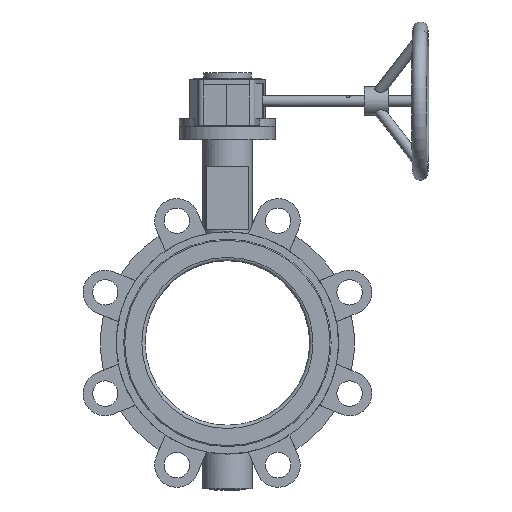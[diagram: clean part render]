
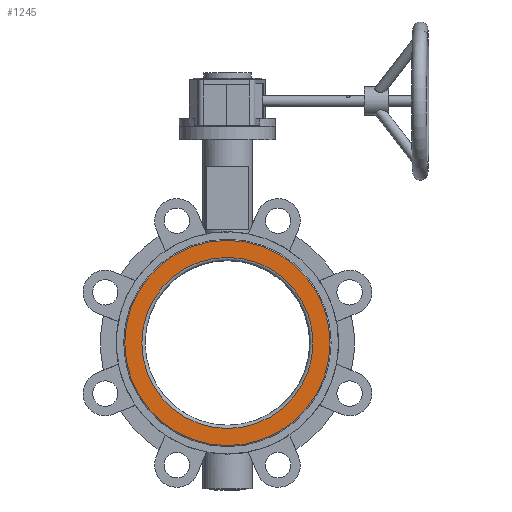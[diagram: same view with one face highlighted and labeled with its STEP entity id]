
A CAD part, front view. The second image highlights one B-rep face of the part: STEP entity #1245.
In plain terms, the highlighted planar face has unit normal (0, -1, 0) as drawn and (1, 0, 0) by its records, which use the part's own axes.
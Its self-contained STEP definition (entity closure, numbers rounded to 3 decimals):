
#525 = CARTESIAN_POINT ( 'NONE',  ( 30., 97., 0. ) ) ;
#678 = CIRCLE ( 'NONE', #5215, 80.889 ) ;
#959 = EDGE_LOOP ( 'NONE', ( #2393 ) ) ;
#1078 = PLANE ( 'NONE',  #2253 ) ;
#1245 = ADVANCED_FACE ( 'NONE', ( #5617, #5891 ), #1078, .F. ) ;
#1560 = CARTESIAN_POINT ( 'NONE',  ( 30., 0., 80.889 ) ) ;
#1777 = AXIS2_PLACEMENT_3D ( 'NONE', #8842, #2406, #7201 ) ;
#2141 = EDGE_CURVE ( 'NONE', #5085, #5085, #3168, .T. ) ;
#2253 = AXIS2_PLACEMENT_3D ( 'NONE', #525, #10103, #10202 ) ;
#2393 = ORIENTED_EDGE ( 'NONE', *, *, #2141, .F. ) ;
#2406 = DIRECTION ( 'NONE',  ( -1., 0., 0. ) ) ;
#2856 = EDGE_LOOP ( 'NONE', ( #6996 ) ) ;
#3168 = CIRCLE ( 'NONE', #1777, 97. ) ;
#3532 = CARTESIAN_POINT ( 'NONE',  ( 30., 0., 0. ) ) ;
#5085 = VERTEX_POINT ( 'NONE', #7635 ) ;
#5215 = AXIS2_PLACEMENT_3D ( 'NONE', #3532, #10439, #5636 ) ;
#5617 = FACE_OUTER_BOUND ( 'NONE', #959, .T. ) ;
#5636 = DIRECTION ( 'NONE',  ( 0., 0., 1. ) ) ;
#5891 = FACE_BOUND ( 'NONE', #2856, .T. ) ;
#6996 = ORIENTED_EDGE ( 'NONE', *, *, #8690, .T. ) ;
#7201 = DIRECTION ( 'NONE',  ( 0., 0., 1. ) ) ;
#7635 = CARTESIAN_POINT ( 'NONE',  ( 30., 0., 97. ) ) ;
#8649 = VERTEX_POINT ( 'NONE', #1560 ) ;
#8690 = EDGE_CURVE ( 'NONE', #8649, #8649, #678, .T. ) ;
#8842 = CARTESIAN_POINT ( 'NONE',  ( 30., 0., 0. ) ) ;
#10103 = DIRECTION ( 'NONE',  ( -1., 0., 0. ) ) ;
#10202 = DIRECTION ( 'NONE',  ( 0., 0., 1. ) ) ;
#10439 = DIRECTION ( 'NONE',  ( -1., 0., 0. ) ) ;
